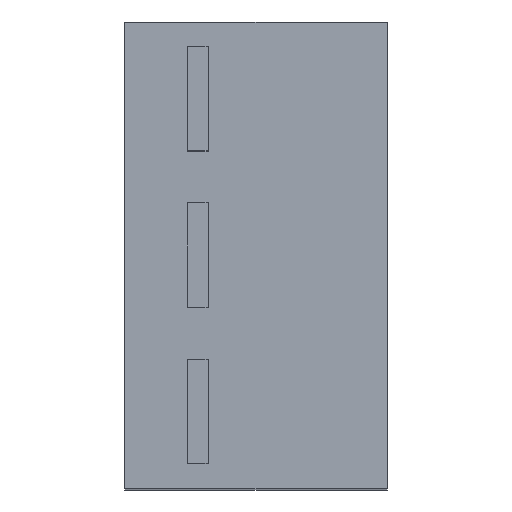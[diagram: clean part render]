
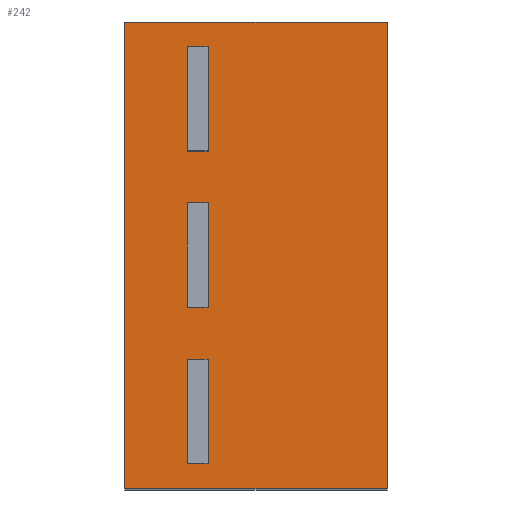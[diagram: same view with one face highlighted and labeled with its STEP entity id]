
A CAD part, top view. The second image highlights one B-rep face of the part: STEP entity #242.
In plain terms, the highlighted planar face has unit normal (0, 0, 1).
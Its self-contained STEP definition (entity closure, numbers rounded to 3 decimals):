
#242=ADVANCED_FACE('',(#614,#616,#618,#620),#622,.T.);
#614=FACE_BOUND('',#615,.T.);
#615=EDGE_LOOP('',(#857,#858,#859,#860));
#616=FACE_BOUND('',#617,.T.);
#617=EDGE_LOOP('',(#861,#862,#863,#864));
#618=FACE_BOUND('',#619,.T.);
#619=EDGE_LOOP('',(#865,#866,#867,#868));
#620=FACE_BOUND('',#621,.T.);
#621=EDGE_LOOP('',(#869,#870,#871,#872));
#622=PLANE('',#623);
#623=AXIS2_PLACEMENT_3D('',#624,#625,#626);
#624=CARTESIAN_POINT('',(0.,0.,186.));
#625=DIRECTION('',(0.,0.,1.));
#626=DIRECTION('',(1.,0.,0.));
#857=ORIENTED_EDGE('',*,*,#1029,.F.);
#858=ORIENTED_EDGE('',*,*,#1030,.T.);
#859=ORIENTED_EDGE('',*,*,#1031,.T.);
#860=ORIENTED_EDGE('',*,*,#1032,.F.);
#861=ORIENTED_EDGE('',*,*,#1033,.F.);
#862=ORIENTED_EDGE('',*,*,#991,.T.);
#863=ORIENTED_EDGE('',*,*,#1034,.F.);
#864=ORIENTED_EDGE('',*,*,#985,.F.);
#865=ORIENTED_EDGE('',*,*,#1035,.F.);
#866=ORIENTED_EDGE('',*,*,#980,.F.);
#867=ORIENTED_EDGE('',*,*,#1036,.F.);
#868=ORIENTED_EDGE('',*,*,#976,.T.);
#869=ORIENTED_EDGE('',*,*,#1028,.F.);
#870=ORIENTED_EDGE('',*,*,#970,.F.);
#871=ORIENTED_EDGE('',*,*,#1025,.F.);
#872=ORIENTED_EDGE('',*,*,#968,.T.);
#968=EDGE_CURVE('',#1062,#1066,#1068,.T.);
#970=EDGE_CURVE('',#1071,#1072,#1073,.F.);
#976=EDGE_CURVE('',#1084,#1081,#1085,.T.);
#980=EDGE_CURVE('',#1091,#1092,#1093,.F.);
#985=EDGE_CURVE('',#1101,#1102,#1103,.F.);
#991=EDGE_CURVE('',#1114,#1111,#1115,.T.);
#1025=EDGE_CURVE('',#1062,#1071,#1181,.T.);
#1028=EDGE_CURVE('',#1072,#1066,#1184,.T.);
#1029=EDGE_CURVE('',#1185,#1186,#1187,.T.);
#1030=EDGE_CURVE('',#1185,#1188,#1189,.T.);
#1031=EDGE_CURVE('',#1188,#1190,#1191,.T.);
#1032=EDGE_CURVE('',#1186,#1190,#1192,.T.);
#1033=EDGE_CURVE('',#1114,#1101,#1193,.T.);
#1034=EDGE_CURVE('',#1102,#1111,#1194,.T.);
#1035=EDGE_CURVE('',#1092,#1081,#1195,.T.);
#1036=EDGE_CURVE('',#1084,#1091,#1196,.T.);
#1062=VERTEX_POINT('',#1226);
#1066=VERTEX_POINT('',#1234);
#1068=LINE('',#1238,#1239);
#1071=VERTEX_POINT('',#1246);
#1072=VERTEX_POINT('',#1247);
#1073=LINE('',#1248,#1249);
#1081=VERTEX_POINT('',#1267);
#1084=VERTEX_POINT('',#1272);
#1085=LINE('',#1273,#1274);
#1091=VERTEX_POINT('',#1288);
#1092=VERTEX_POINT('',#1289);
#1093=LINE('',#1290,#1291);
#1101=VERTEX_POINT('',#1309);
#1102=VERTEX_POINT('',#1310);
#1103=LINE('',#1311,#1312);
#1111=VERTEX_POINT('',#1330);
#1114=VERTEX_POINT('',#1335);
#1115=LINE('',#1336,#1337);
#1181=LINE('',#1477,#1478);
#1184=LINE('',#1486,#1487);
#1185=VERTEX_POINT('',#1489);
#1186=VERTEX_POINT('',#1490);
#1187=LINE('',#1491,#1492);
#1188=VERTEX_POINT('',#1494);
#1189=LINE('',#1495,#1496);
#1190=VERTEX_POINT('',#1498);
#1191=LINE('',#1499,#1500);
#1192=LINE('',#1502,#1503);
#1193=LINE('',#1505,#1506);
#1194=LINE('',#1508,#1509);
#1195=LINE('',#1511,#1512);
#1196=LINE('',#1514,#1515);
#1226=CARTESIAN_POINT('',(15.,81.,186.));
#1234=CARTESIAN_POINT('',(15.,106.,186.));
#1238=CARTESIAN_POINT('',(15.,81.,186.));
#1239=VECTOR('',#1240,1.);
#1240=DIRECTION('',(0.,1.,0.));
#1246=CARTESIAN_POINT('',(20.,81.,186.));
#1247=CARTESIAN_POINT('',(20.,106.,186.));
#1248=CARTESIAN_POINT('',(20.,106.,186.));
#1249=VECTOR('',#1250,1.);
#1250=DIRECTION('',(0.,-1.,0.));
#1267=CARTESIAN_POINT('',(15.,31.,186.));
#1272=CARTESIAN_POINT('',(15.,6.,186.));
#1273=CARTESIAN_POINT('',(15.,6.,186.));
#1274=VECTOR('',#1275,1.);
#1275=DIRECTION('',(0.,1.,0.));
#1288=CARTESIAN_POINT('',(20.,6.,186.));
#1289=CARTESIAN_POINT('',(20.,31.,186.));
#1290=CARTESIAN_POINT('',(20.,31.,186.));
#1291=VECTOR('',#1292,1.);
#1292=DIRECTION('',(0.,-1.,0.));
#1309=CARTESIAN_POINT('',(20.,43.5,186.));
#1310=CARTESIAN_POINT('',(20.,68.5,186.));
#1311=CARTESIAN_POINT('',(20.,68.5,186.));
#1312=VECTOR('',#1313,1.);
#1313=DIRECTION('',(0.,-1.,0.));
#1330=CARTESIAN_POINT('',(15.,68.5,186.));
#1335=CARTESIAN_POINT('',(15.,43.5,186.));
#1336=CARTESIAN_POINT('',(15.,43.5,186.));
#1337=VECTOR('',#1338,1.);
#1338=DIRECTION('',(0.,1.,0.));
#1477=CARTESIAN_POINT('',(15.,81.,186.));
#1478=VECTOR('',#1479,1.);
#1479=DIRECTION('',(1.,0.,0.));
#1486=CARTESIAN_POINT('',(20.,106.,186.));
#1487=VECTOR('',#1488,1.);
#1488=DIRECTION('',(-1.,0.,0.));
#1489=CARTESIAN_POINT('',(0.,0.,186.));
#1490=CARTESIAN_POINT('',(0.,112.,186.));
#1491=CARTESIAN_POINT('',(0.,0.,186.));
#1492=VECTOR('',#1493,1.);
#1493=DIRECTION('',(0.,1.,0.));
#1494=CARTESIAN_POINT('',(63.,0.,186.));
#1495=CARTESIAN_POINT('',(0.,0.,186.));
#1496=VECTOR('',#1497,1.);
#1497=DIRECTION('',(1.,0.,0.));
#1498=CARTESIAN_POINT('',(63.,112.,186.));
#1499=CARTESIAN_POINT('',(63.,0.,186.));
#1500=VECTOR('',#1501,1.);
#1501=DIRECTION('',(0.,1.,0.));
#1502=CARTESIAN_POINT('',(0.,112.,186.));
#1503=VECTOR('',#1504,1.);
#1504=DIRECTION('',(1.,0.,0.));
#1505=CARTESIAN_POINT('',(15.,43.5,186.));
#1506=VECTOR('',#1507,1.);
#1507=DIRECTION('',(1.,0.,0.));
#1508=CARTESIAN_POINT('',(20.,68.5,186.));
#1509=VECTOR('',#1510,1.);
#1510=DIRECTION('',(-1.,0.,0.));
#1511=CARTESIAN_POINT('',(20.,31.,186.));
#1512=VECTOR('',#1513,1.);
#1513=DIRECTION('',(-1.,0.,0.));
#1514=CARTESIAN_POINT('',(15.,6.,186.));
#1515=VECTOR('',#1516,1.);
#1516=DIRECTION('',(1.,0.,0.));
